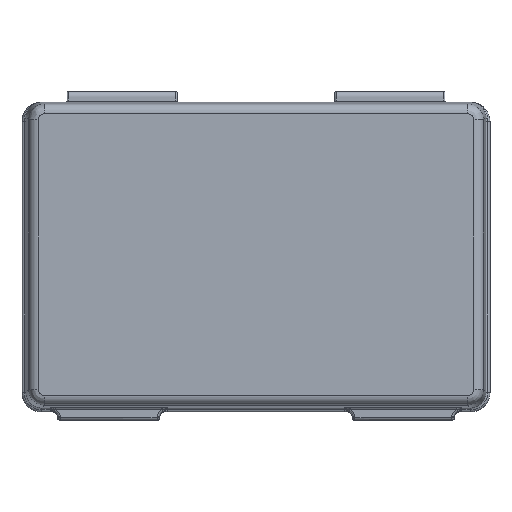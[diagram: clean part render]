
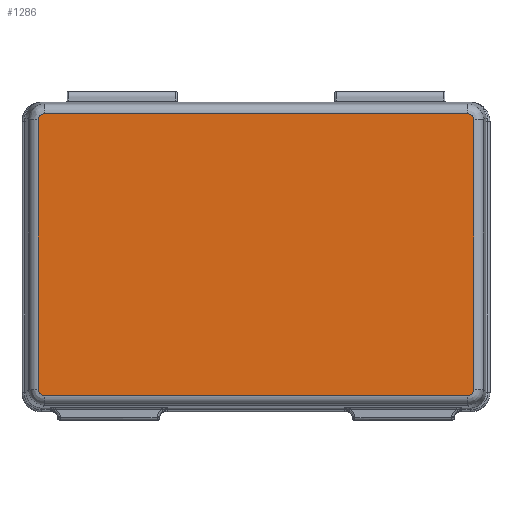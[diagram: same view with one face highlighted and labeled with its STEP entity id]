
A CAD part, top view. The second image highlights one B-rep face of the part: STEP entity #1286.
In plain terms, the highlighted planar face has unit normal (0, 0, 1).
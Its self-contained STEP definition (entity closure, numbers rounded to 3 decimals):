
#859=FACE_OUTER_BOUND('',#1812,.T.);
#1286=ADVANCED_FACE('',(#859),#1511,.F.);
#1511=PLANE('',#7149);
#1812=EDGE_LOOP('',(#3637,#3638,#3639,#3640,#3641,#3642,#3643,#3644));
#2028=ELLIPSE('',#7145,2.405,2.4);
#2029=ELLIPSE('',#7146,2.405,2.4);
#2030=ELLIPSE('',#7147,2.407,2.4);
#2031=ELLIPSE('',#7148,2.407,2.4);
#3637=ORIENTED_EDGE('',*,*,#5611,.T.);
#3638=ORIENTED_EDGE('',*,*,#5612,.T.);
#3639=ORIENTED_EDGE('',*,*,#5613,.T.);
#3640=ORIENTED_EDGE('',*,*,#5614,.T.);
#3641=ORIENTED_EDGE('',*,*,#5615,.T.);
#3642=ORIENTED_EDGE('',*,*,#5616,.T.);
#3643=ORIENTED_EDGE('',*,*,#5617,.T.);
#3644=ORIENTED_EDGE('',*,*,#5618,.T.);
#4783=VERTEX_POINT('',#13265);
#4784=VERTEX_POINT('',#13266);
#4785=VERTEX_POINT('',#13268);
#4786=VERTEX_POINT('',#13270);
#4787=VERTEX_POINT('',#13272);
#4788=VERTEX_POINT('',#13274);
#4789=VERTEX_POINT('',#13276);
#4790=VERTEX_POINT('',#13278);
#5611=EDGE_CURVE('',#4783,#4784,#6216,.T.);
#5612=EDGE_CURVE('',#4784,#4785,#2028,.T.);
#5613=EDGE_CURVE('',#4785,#4786,#6217,.T.);
#5614=EDGE_CURVE('',#4786,#4787,#2029,.T.);
#5615=EDGE_CURVE('',#4787,#4788,#6218,.T.);
#5616=EDGE_CURVE('',#4788,#4789,#2030,.T.);
#5617=EDGE_CURVE('',#4789,#4790,#6219,.T.);
#5618=EDGE_CURVE('',#4790,#4783,#2031,.T.);
#6216=LINE('',#13264,#6593);
#6217=LINE('',#13269,#6594);
#6218=LINE('',#13273,#6595);
#6219=LINE('',#13277,#6596);
#6593=VECTOR('',#8575,1.);
#6594=VECTOR('',#8578,1.);
#6595=VECTOR('',#8581,1.);
#6596=VECTOR('',#8584,1.);
#7145=AXIS2_PLACEMENT_3D('',#13267,#8576,#8577);
#7146=AXIS2_PLACEMENT_3D('',#13271,#8579,#8580);
#7147=AXIS2_PLACEMENT_3D('',#13275,#8582,#8583);
#7148=AXIS2_PLACEMENT_3D('',#13279,#8585,#8586);
#7149=AXIS2_PLACEMENT_3D('',#13280,#8587,#8588);
#8575=DIRECTION('',(0.,1.,0.));
#8576=DIRECTION('',(0.,0.,1.));
#8577=DIRECTION('',(0.832,0.555,0.));
#8578=DIRECTION('',(-1.,0.,0.));
#8579=DIRECTION('',(0.,0.,1.));
#8580=DIRECTION('',(-0.832,0.555,0.));
#8581=DIRECTION('',(0.,-1.,0.));
#8582=DIRECTION('',(0.,0.,1.));
#8583=DIRECTION('',(-0.707,-0.707,0.));
#8584=DIRECTION('',(1.,0.,0.));
#8585=DIRECTION('',(0.,0.,1.));
#8586=DIRECTION('',(0.707,-0.707,0.));
#8587=DIRECTION('',(0.,0.,-1.));
#8588=DIRECTION('',(1.,0.,0.));
#13264=CARTESIAN_POINT('',(89.342,-9.6,36.5));
#13265=CARTESIAN_POINT('',(89.342,-120.345,36.5));
#13266=CARTESIAN_POINT('',(89.342,-9.468,36.5));
#13267=CARTESIAN_POINT('',(86.938,-9.472,36.5));
#13268=CARTESIAN_POINT('',(86.943,-7.071,36.5));
#13269=CARTESIAN_POINT('',(-86.74,-7.071,36.5));
#13270=CARTESIAN_POINT('',(-86.943,-7.071,36.5));
#13271=CARTESIAN_POINT('',(-86.938,-9.472,36.5));
#13272=CARTESIAN_POINT('',(-89.342,-9.468,36.5));
#13273=CARTESIAN_POINT('',(-89.342,-120.146,36.5));
#13274=CARTESIAN_POINT('',(-89.342,-120.345,36.5));
#13275=CARTESIAN_POINT('',(-86.938,-120.338,36.5));
#13276=CARTESIAN_POINT('',(-86.945,-122.742,36.5));
#13277=CARTESIAN_POINT('',(86.746,-122.742,36.5));
#13278=CARTESIAN_POINT('',(86.945,-122.742,36.5));
#13279=CARTESIAN_POINT('',(86.938,-120.338,36.5));
#13280=CARTESIAN_POINT('',(0.,-2.3,36.5));
